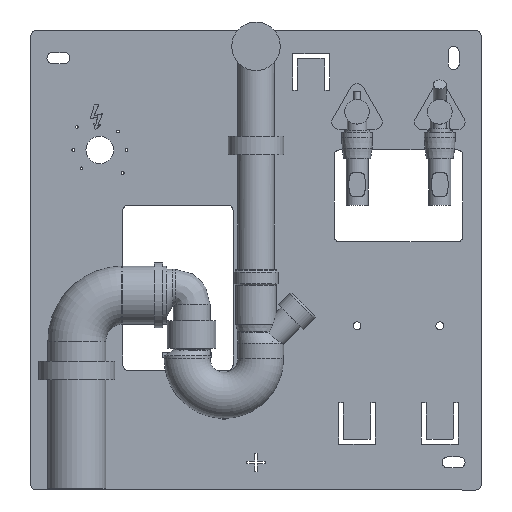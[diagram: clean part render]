
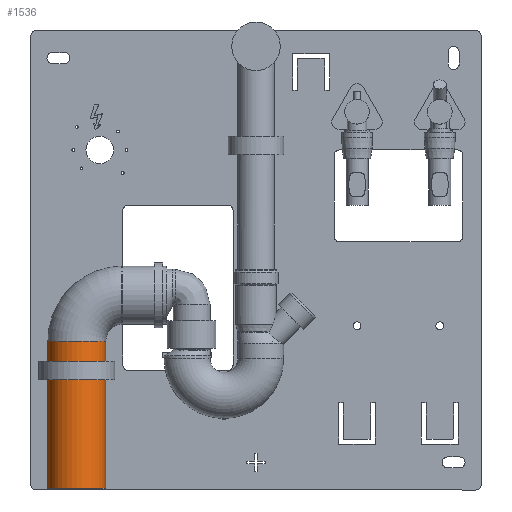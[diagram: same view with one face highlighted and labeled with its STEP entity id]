
A CAD part, front view. The second image highlights one B-rep face of the part: STEP entity #1536.
In plain terms, the highlighted cylindrical face has radius 31.5 mm (diameter 63 mm), a full revolution.
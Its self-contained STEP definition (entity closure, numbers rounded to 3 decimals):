
#1536=ADVANCED_FACE('',(#3647,#3648),#3649,.T.);
#3647=FACE_BOUND('',#6967,.T.);
#3648=FACE_BOUND('',#6968,.T.);
#3649=CYLINDRICAL_SURFACE('',#6969,31.5);
#6967=EDGE_LOOP('',(#9471));
#6968=EDGE_LOOP('',(#9472));
#6969=AXIS2_PLACEMENT_3D('',#9473,#9474,#9475);
#9471=ORIENTED_EDGE('',*,*,#17842,.F.);
#9472=ORIENTED_EDGE('',*,*,#17843,.T.);
#9473=CARTESIAN_POINT('',(-136.765,-50.0,190.0));
#9474=DIRECTION('',(0.,0.,1.0));
#9475=DIRECTION('',(0.,1.0,0.));
#17842=EDGE_CURVE('',#22146,#22146,#22147,.T.);
#17843=EDGE_CURVE('',#22148,#22148,#22149,.T.);
#22146=VERTEX_POINT('',#26802);
#22147=CIRCLE('',#26803,31.5);
#22148=VERTEX_POINT('',#26804);
#22149=CIRCLE('',#26805,31.5);
#26802=CARTESIAN_POINT('',(-105.265,-50.0,350.));
#26803=AXIS2_PLACEMENT_3D('',#33397,#33398,#33399);
#26804=CARTESIAN_POINT('',(-136.765,-18.5,190.0));
#26805=AXIS2_PLACEMENT_3D('',#33400,#33401,#33402);
#33397=CARTESIAN_POINT('',(-136.765,-50.0,350.));
#33398=DIRECTION('',(0.0,0.0,1.0));
#33399=DIRECTION('',(-1.0,0.0,0.0));
#33400=CARTESIAN_POINT('',(-136.765,-50.0,190.0));
#33401=DIRECTION('',(0.,0.,1.0));
#33402=DIRECTION('',(0.,1.0,0.));
